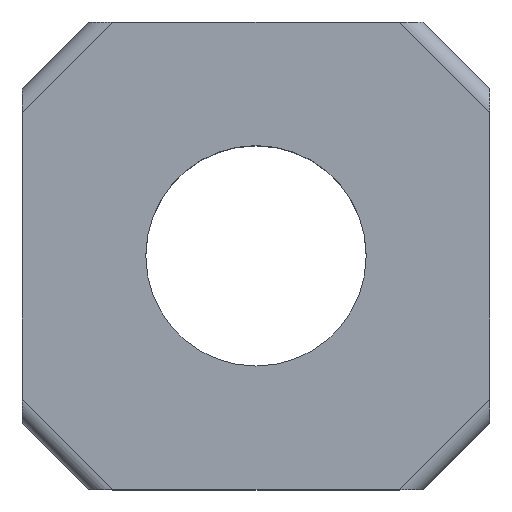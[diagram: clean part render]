
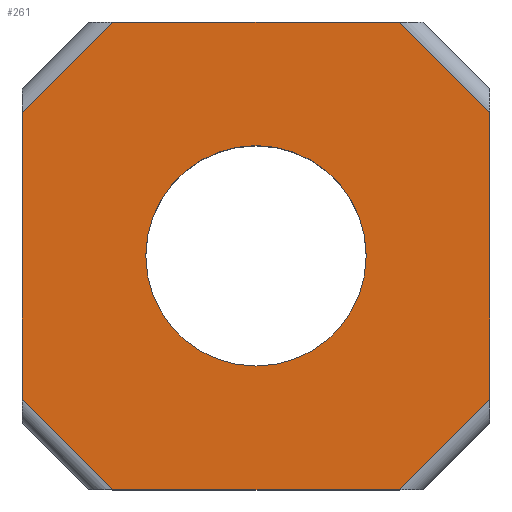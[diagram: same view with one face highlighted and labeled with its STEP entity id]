
A CAD part, top view. The second image highlights one B-rep face of the part: STEP entity #261.
In plain terms, the highlighted planar face has unit normal (0, 0, 1).
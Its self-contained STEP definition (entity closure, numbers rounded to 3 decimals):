
#6 = VERTEX_POINT ( 'NONE', #567 ) ;
#14 = CARTESIAN_POINT ( 'NONE',  ( 10.019, -8.683, 6. ) ) ;
#25 = CARTESIAN_POINT ( 'NONE',  ( 3.372, -4.036, 6. ) ) ;
#35 = LINE ( 'NONE', #14, #611 ) ;
#38 = LINE ( 'NONE', #707, #613 ) ;
#42 = DIRECTION ( 'NONE',  ( 1., 0., 0. ) ) ;
#53 = CIRCLE ( 'NONE', #566, 3.3 ) ;
#54 = ORIENTED_EDGE ( 'NONE', *, *, #582, .T. ) ;
#69 = CARTESIAN_POINT ( 'NONE',  ( 3.372, -4.036, 6. ) ) ;
#76 = VERTEX_POINT ( 'NONE', #79 ) ;
#79 = CARTESIAN_POINT ( 'NONE',  ( 0.072, -4.036, 6. ) ) ;
#82 = DIRECTION ( 'NONE',  ( 1., 0., 0. ) ) ;
#90 = LINE ( 'NONE', #251, #507 ) ;
#122 = EDGE_CURVE ( 'NONE', #205, #350, #236, .T. ) ;
#123 = DIRECTION ( 'NONE',  ( 1., 0., 0. ) ) ;
#124 = EDGE_CURVE ( 'NONE', #393, #6, #35, .T. ) ;
#134 = DIRECTION ( 'NONE',  ( 0.707, 0.707, 0. ) ) ;
#136 = ORIENTED_EDGE ( 'NONE', *, *, #403, .T. ) ;
#139 = DIRECTION ( 'NONE',  ( 0., -1., 0. ) ) ;
#152 = CIRCLE ( 'NONE', #600, 3.3 ) ;
#165 = VECTOR ( 'NONE', #248, 1000. ) ;
#167 = CARTESIAN_POINT ( 'NONE',  ( 7.665, -11.036, 6. ) ) ;
#176 = CARTESIAN_POINT ( 'NONE',  ( 8.019, 2.61, 6. ) ) ;
#180 = LINE ( 'NONE', #693, #165 ) ;
#205 = VERTEX_POINT ( 'NONE', #212 ) ;
#212 = CARTESIAN_POINT ( 'NONE',  ( -0.921, 2.964, 6. ) ) ;
#213 = CARTESIAN_POINT ( 'NONE',  ( -3.628, 2.964, 6. ) ) ;
#226 = VERTEX_POINT ( 'NONE', #575 ) ;
#232 = ORIENTED_EDGE ( 'NONE', *, *, #258, .F. ) ;
#236 = LINE ( 'NONE', #213, #579 ) ;
#244 = EDGE_LOOP ( 'NONE', ( #232, #516 ) ) ;
#248 = DIRECTION ( 'NONE',  ( 0., -1., 0. ) ) ;
#251 = CARTESIAN_POINT ( 'NONE',  ( -1.274, -10.683, 6. ) ) ;
#258 = EDGE_CURVE ( 'NONE', #415, #76, #152, .T. ) ;
#259 = VERTEX_POINT ( 'NONE', #687 ) ;
#261 = ADVANCED_FACE ( 'NONE', ( #362, #442 ), #517, .F. ) ;
#265 = DIRECTION ( 'NONE',  ( 1., 0., 0. ) ) ;
#270 = CARTESIAN_POINT ( 'NONE',  ( -3.274, 0.61, 6. ) ) ;
#277 = VERTEX_POINT ( 'NONE', #357 ) ;
#281 = ORIENTED_EDGE ( 'NONE', *, *, #407, .T. ) ;
#284 = DIRECTION ( 'NONE',  ( -0.707, 0.707, 0. ) ) ;
#289 = CARTESIAN_POINT ( 'NONE',  ( 0., 0., 6. ) ) ;
#294 = EDGE_CURVE ( 'NONE', #76, #415, #53, .T. ) ;
#301 = CARTESIAN_POINT ( 'NONE',  ( -3.628, 2.964, 6. ) ) ;
#314 = EDGE_LOOP ( 'NONE', ( #438, #395, #136, #281, #54, #584, #597, #531 ) ) ;
#331 = EDGE_CURVE ( 'NONE', #373, #350, #501, .T. ) ;
#350 = VERTEX_POINT ( 'NONE', #459 ) ;
#357 = CARTESIAN_POINT ( 'NONE',  ( -3.628, -8.329, 6. ) ) ;
#362 = FACE_BOUND ( 'NONE', #244, .T. ) ;
#366 = DIRECTION ( 'NONE',  ( -1., 0., 0. ) ) ;
#367 = EDGE_CURVE ( 'NONE', #373, #6, #180, .T. ) ;
#373 = VERTEX_POINT ( 'NONE', #526 ) ;
#393 = VERTEX_POINT ( 'NONE', #167 ) ;
#395 = ORIENTED_EDGE ( 'NONE', *, *, #425, .T. ) ;
#403 = EDGE_CURVE ( 'NONE', #226, #277, #679, .T. ) ;
#407 = EDGE_CURVE ( 'NONE', #277, #259, #90, .T. ) ;
#415 = VERTEX_POINT ( 'NONE', #585 ) ;
#425 = EDGE_CURVE ( 'NONE', #205, #226, #630, .T. ) ;
#428 = DIRECTION ( 'NONE',  ( 0., 0., 1. ) ) ;
#438 = ORIENTED_EDGE ( 'NONE', *, *, #122, .F. ) ;
#442 = FACE_OUTER_BOUND ( 'NONE', #314, .T. ) ;
#459 = CARTESIAN_POINT ( 'NONE',  ( 7.665, 2.964, 6. ) ) ;
#464 = DIRECTION ( 'NONE',  ( 0., 0., 1. ) ) ;
#487 = VECTOR ( 'NONE', #711, 1000. ) ;
#501 = LINE ( 'NONE', #176, #621 ) ;
#507 = VECTOR ( 'NONE', #692, 1000. ) ;
#516 = ORIENTED_EDGE ( 'NONE', *, *, #294, .F. ) ;
#517 = PLANE ( 'NONE',  #574 ) ;
#519 = VECTOR ( 'NONE', #139, 1000. ) ;
#526 = CARTESIAN_POINT ( 'NONE',  ( 10.372, 0.256, 6. ) ) ;
#531 = ORIENTED_EDGE ( 'NONE', *, *, #331, .T. ) ;
#566 = AXIS2_PLACEMENT_3D ( 'NONE', #25, #428, #82 ) ;
#567 = CARTESIAN_POINT ( 'NONE',  ( 10.372, -8.329, 6. ) ) ;
#574 = AXIS2_PLACEMENT_3D ( 'NONE', #289, #694, #366 ) ;
#575 = CARTESIAN_POINT ( 'NONE',  ( -3.628, 0.256, 6. ) ) ;
#579 = VECTOR ( 'NONE', #265, 1000. ) ;
#582 = EDGE_CURVE ( 'NONE', #259, #393, #38, .T. ) ;
#584 = ORIENTED_EDGE ( 'NONE', *, *, #124, .T. ) ;
#585 = CARTESIAN_POINT ( 'NONE',  ( 6.672, -4.036, 6. ) ) ;
#597 = ORIENTED_EDGE ( 'NONE', *, *, #367, .F. ) ;
#600 = AXIS2_PLACEMENT_3D ( 'NONE', #69, #464, #123 ) ;
#611 = VECTOR ( 'NONE', #134, 1000. ) ;
#613 = VECTOR ( 'NONE', #42, 1000. ) ;
#621 = VECTOR ( 'NONE', #284, 1000. ) ;
#630 = LINE ( 'NONE', #270, #487 ) ;
#679 = LINE ( 'NONE', #301, #519 ) ;
#687 = CARTESIAN_POINT ( 'NONE',  ( -0.921, -11.036, 6. ) ) ;
#692 = DIRECTION ( 'NONE',  ( 0.707, -0.707, 0. ) ) ;
#693 = CARTESIAN_POINT ( 'NONE',  ( 10.372, 2.964, 6. ) ) ;
#694 = DIRECTION ( 'NONE',  ( 0., 0., -1. ) ) ;
#707 = CARTESIAN_POINT ( 'NONE',  ( -3.628, -11.036, 6. ) ) ;
#711 = DIRECTION ( 'NONE',  ( -0.707, -0.707, 0. ) ) ;
